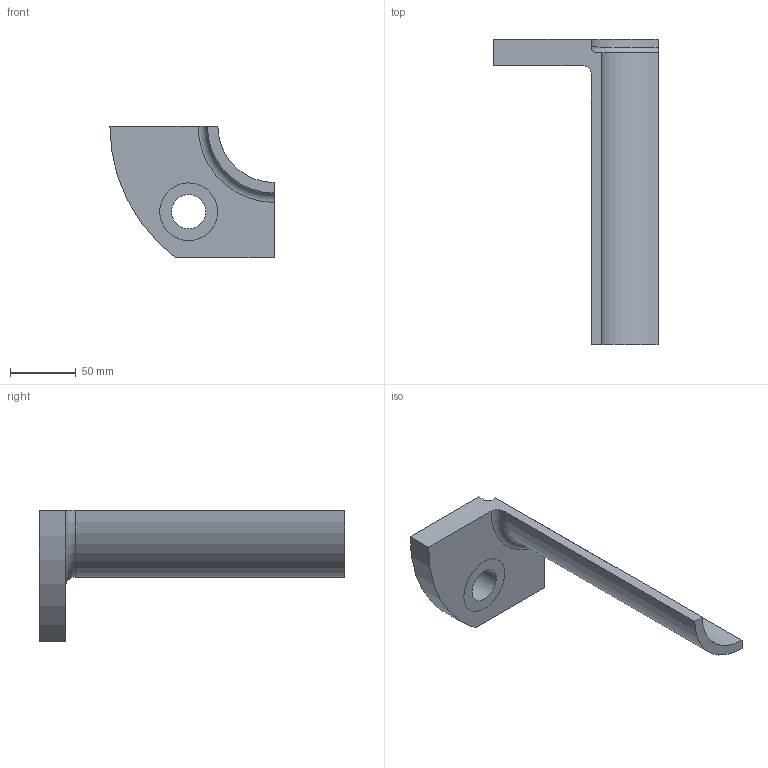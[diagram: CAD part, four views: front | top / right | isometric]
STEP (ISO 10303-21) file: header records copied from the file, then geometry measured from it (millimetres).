
FILE_DESCRIPTION((''),'2;1');
FILE_NAME('ABSPANNUNG','2020-03-24T',('pkloninger'),(''),'CREO PARAMETRIC BY PTC INC, 2017020','CREO PARAMETRIC BY PTC INC, 2017020','');
FILE_SCHEMA(('CONFIG_CONTROL_DESIGN'));
Length unit declared in the file: millimetre
Products named in the file (1): ABSPANNUNG
Bounding box: 125 x 232.22 x 100 mm (x, y, z)
Volume: 300451.6 mm3; surface area: 62831.3 mm2
Topology: 1 solids, 2 shells, 16 faces, 43 edges, 30 vertices
Faces by surface type: plane 8, cylinder 6, torus 2
Entity records: 569 total; most frequent: DIRECTION 99, CARTESIAN_POINT 90, ORIENTED_EDGE 82, EDGE_CURVE 43, AXIS2_PLACEMENT_3D 39, VERTEX_POINT 30, CIRCLE 22, VECTOR 21
